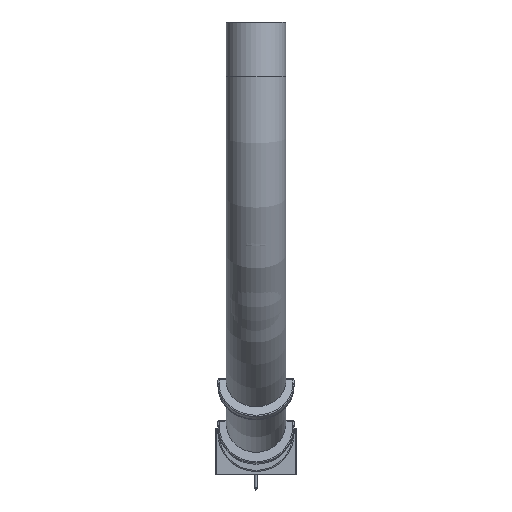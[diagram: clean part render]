
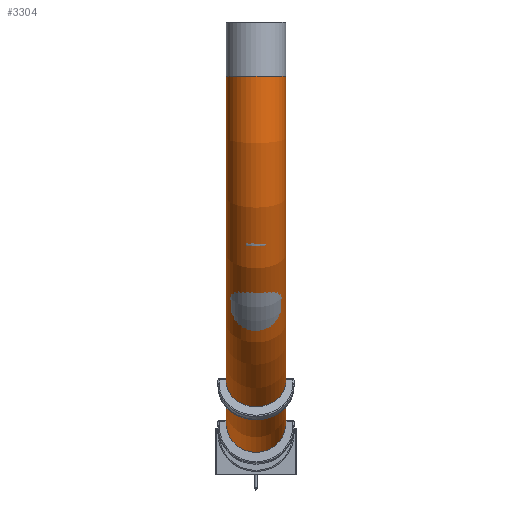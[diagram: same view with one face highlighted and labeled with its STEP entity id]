
A CAD part, top view. The second image highlights one B-rep face of the part: STEP entity #3304.
In plain terms, the highlighted toroidal (fillet/blend) face has major radius 650 mm and minor radius 55 mm.
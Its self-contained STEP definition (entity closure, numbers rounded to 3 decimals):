
#217=TOROIDAL_SURFACE('',#3683,650.,55.);
#341=FACE_OUTER_BOUND('',#560,.T.);
#560=EDGE_LOOP('',(#2639,#2640,#2641,#2642,#2643,#2644,#2645,#2646,#2647,
#2648,#2649));
#727=CIRCLE('',#3599,55.);
#764=CIRCLE('',#3674,645.);
#766=CIRCLE('',#3680,645.);
#768=CIRCLE('',#3684,55.);
#769=CIRCLE('',#3685,55.);
#770=CIRCLE('',#3686,595.);
#1363=B_SPLINE_CURVE_WITH_KNOTS('',3,(#5903,#5904,#5905,#5906,#5907,#5908),
 .UNSPECIFIED.,.F.,.F.,(4,2,4),(-19.496,-8.773,0.),
 .UNSPECIFIED.);
#1365=B_SPLINE_CURVE_WITH_KNOTS('',3,(#5922,#5923,#5924,#5925,#5926,#5927,
#5928,#5929),.UNSPECIFIED.,.F.,.F.,(4,2,2,4),(62.699,64.369,
70.698,77.026),.UNSPECIFIED.);
#1368=B_SPLINE_CURVE_WITH_KNOTS('',3,(#5985,#5986,#5987,#5988,#5989,#5990,
#5991,#5992),.UNSPECIFIED.,.F.,.F.,(4,2,2,4),(0.,6.328,12.657,
14.327),.UNSPECIFIED.);
#1369=B_SPLINE_CURVE_WITH_KNOTS('',3,(#5995,#5996,#5997,#5998,#5999,#6000,
#6001,#6002),.UNSPECIFIED.,.F.,.F.,(4,2,2,4),(-14.589,-11.079,
-7.589,0.),.UNSPECIFIED.);
#1464=VERTEX_POINT('',#5538);
#1471=VERTEX_POINT('',#5555);
#1518=VERTEX_POINT('',#5896);
#1520=VERTEX_POINT('',#5902);
#1522=VERTEX_POINT('',#5920);
#1523=VERTEX_POINT('',#5921);
#1526=VERTEX_POINT('',#5994);
#1529=VERTEX_POINT('',#6019);
#1530=VERTEX_POINT('',#6020);
#1818=EDGE_CURVE('',#1464,#1471,#727,.T.);
#1901=EDGE_CURVE('',#1518,#1464,#764,.T.);
#1904=EDGE_CURVE('',#1520,#1518,#1363,.T.);
#1907=EDGE_CURVE('',#1522,#1523,#1365,.T.);
#1911=EDGE_CURVE('',#1523,#1520,#1368,.T.);
#1912=EDGE_CURVE('',#1526,#1522,#1369,.T.);
#1915=EDGE_CURVE('',#1471,#1526,#766,.T.);
#1919=EDGE_CURVE('',#1529,#1530,#768,.T.);
#1920=EDGE_CURVE('',#1530,#1529,#769,.T.);
#1921=EDGE_CURVE('',#1530,#1523,#770,.T.);
#2639=ORIENTED_EDGE('',*,*,#1919,.F.);
#2640=ORIENTED_EDGE('',*,*,#1920,.F.);
#2641=ORIENTED_EDGE('',*,*,#1921,.T.);
#2642=ORIENTED_EDGE('',*,*,#1911,.T.);
#2643=ORIENTED_EDGE('',*,*,#1904,.T.);
#2644=ORIENTED_EDGE('',*,*,#1901,.T.);
#2645=ORIENTED_EDGE('',*,*,#1818,.T.);
#2646=ORIENTED_EDGE('',*,*,#1915,.T.);
#2647=ORIENTED_EDGE('',*,*,#1912,.T.);
#2648=ORIENTED_EDGE('',*,*,#1907,.T.);
#2649=ORIENTED_EDGE('',*,*,#1921,.F.);
#3304=ADVANCED_FACE('',(#341),#217,.T.);
#3599=AXIS2_PLACEMENT_3D('',#5557,#4234,#4235);
#3674=AXIS2_PLACEMENT_3D('',#5897,#4418,#4419);
#3680=AXIS2_PLACEMENT_3D('',#6012,#4434,#4435);
#3683=AXIS2_PLACEMENT_3D('',#6018,#4442,#4443);
#3684=AXIS2_PLACEMENT_3D('',#6021,#4444,#4445);
#3685=AXIS2_PLACEMENT_3D('',#6022,#4446,#4447);
#3686=AXIS2_PLACEMENT_3D('',#6023,#4448,#4449);
#4234=DIRECTION('center_axis',(0.,0.,-1.));
#4235=DIRECTION('ref_axis',(-1.,0.,0.));
#4418=DIRECTION('center_axis',(-1.,0.,0.));
#4419=DIRECTION('ref_axis',(0.,-1.,0.));
#4434=DIRECTION('center_axis',(1.,0.,0.));
#4435=DIRECTION('ref_axis',(0.,-1.,0.));
#4442=DIRECTION('center_axis',(1.,0.,0.));
#4443=DIRECTION('ref_axis',(0.,0.,-1.));
#4444=DIRECTION('center_axis',(0.,1.,0.));
#4445=DIRECTION('ref_axis',(-1.,0.,0.));
#4446=DIRECTION('center_axis',(0.,1.,0.));
#4447=DIRECTION('ref_axis',(-1.,0.,0.));
#4448=DIRECTION('center_axis',(-1.,0.,0.));
#4449=DIRECTION('ref_axis',(0.,0.,-1.));
#5538=CARTESIAN_POINT('',(54.772,5.,-100.));
#5555=CARTESIAN_POINT('',(-54.772,5.,-100.));
#5557=CARTESIAN_POINT('Origin',(0.,0.,-100.));
#5896=CARTESIAN_POINT('',(54.772,91.414,-422.5));
#5897=CARTESIAN_POINT('Origin',(54.772,650.,-100.));
#5902=CARTESIAN_POINT('',(40.646,224.986,-541.665));
#5903=CARTESIAN_POINT('Ctrl Pts',(40.646,224.986,-541.665));
#5904=CARTESIAN_POINT('Ctrl Pts',(46.344,202.451,-528.654));
#5905=CARTESIAN_POINT('Ctrl Pts',(49.944,176.476,-510.994));
#5906=CARTESIAN_POINT('Ctrl Pts',(53.818,128.504,-467.671));
#5907=CARTESIAN_POINT('Ctrl Pts',(54.469,108.818,-445.999));
#5908=CARTESIAN_POINT('Ctrl Pts',(54.772,91.414,-422.5));
#5920=CARTESIAN_POINT('',(-40.646,224.986,-541.665));
#5921=CARTESIAN_POINT('',(0.,352.5,-615.285));
#5922=CARTESIAN_POINT('Ctrl Pts',(-40.646,224.986,-541.665));
#5923=CARTESIAN_POINT('Ctrl Pts',(-39.351,230.11,-544.623));
#5924=CARTESIAN_POINT('Ctrl Pts',(-37.992,235.233,-547.581));
#5925=CARTESIAN_POINT('Ctrl Pts',(-31.236,259.74,-561.73));
#5926=CARTESIAN_POINT('Ctrl Pts',(-25.141,279.033,-572.869));
#5927=CARTESIAN_POINT('Ctrl Pts',(-12.589,316.674,-594.601));
#5928=CARTESIAN_POINT('Ctrl Pts',(-6.136,335.021,-605.194));
#5929=CARTESIAN_POINT('Ctrl Pts',(0.,352.5,-615.285));
#5985=CARTESIAN_POINT('Ctrl Pts',(0.,352.5,-615.285));
#5986=CARTESIAN_POINT('Ctrl Pts',(6.136,335.021,-605.194));
#5987=CARTESIAN_POINT('Ctrl Pts',(12.589,316.674,-594.601));
#5988=CARTESIAN_POINT('Ctrl Pts',(25.141,279.033,-572.869));
#5989=CARTESIAN_POINT('Ctrl Pts',(31.236,259.74,-561.73));
#5990=CARTESIAN_POINT('Ctrl Pts',(37.992,235.233,-547.581));
#5991=CARTESIAN_POINT('Ctrl Pts',(39.351,230.11,-544.623));
#5992=CARTESIAN_POINT('Ctrl Pts',(40.646,224.986,-541.665));
#5994=CARTESIAN_POINT('',(-54.772,91.414,-422.5));
#5995=CARTESIAN_POINT('Ctrl Pts',(-54.772,91.414,-422.5));
#5996=CARTESIAN_POINT('Ctrl Pts',(-54.611,100.645,-434.964));
#5997=CARTESIAN_POINT('Ctrl Pts',(-54.344,110.529,-446.931));
#5998=CARTESIAN_POINT('Ctrl Pts',(-53.409,131.442,-469.688));
#5999=CARTESIAN_POINT('Ctrl Pts',(-52.746,142.455,-480.474));
#6000=CARTESIAN_POINT('Ctrl Pts',(-49.584,179.049,-512.742));
#6001=CARTESIAN_POINT('Ctrl Pts',(-46.057,203.586,-529.31));
#6002=CARTESIAN_POINT('Ctrl Pts',(-40.646,224.986,-541.665));
#6012=CARTESIAN_POINT('Origin',(-54.772,650.,-100.));
#6018=CARTESIAN_POINT('Origin',(0.,650.,-100.));
#6019=CARTESIAN_POINT('',(55.,650.,-750.));
#6020=CARTESIAN_POINT('',(0.,650.,-695.));
#6021=CARTESIAN_POINT('Origin',(0.,650.,-750.));
#6022=CARTESIAN_POINT('Origin',(0.,650.,-750.));
#6023=CARTESIAN_POINT('Origin',(0.,650.,-100.));
